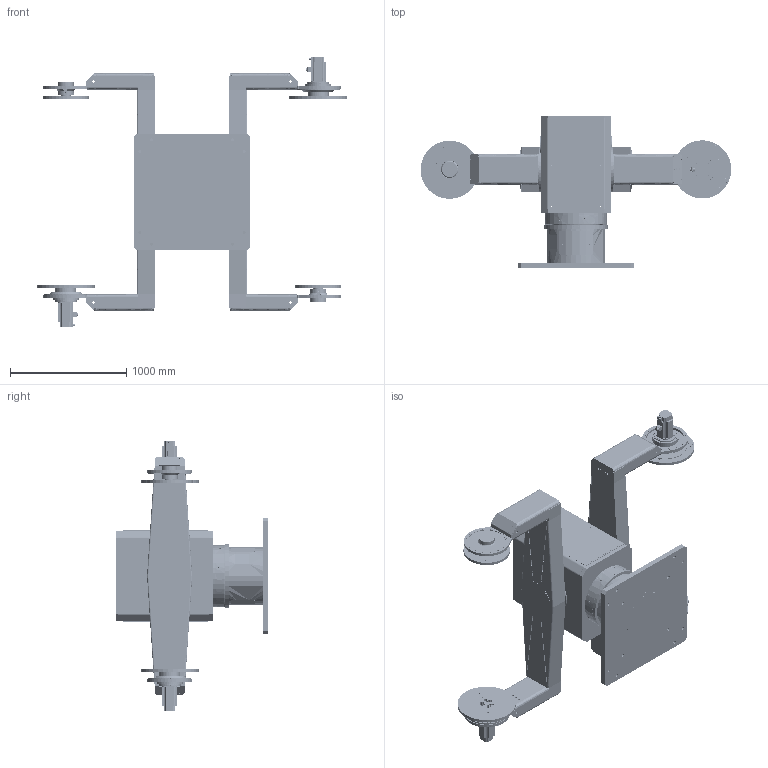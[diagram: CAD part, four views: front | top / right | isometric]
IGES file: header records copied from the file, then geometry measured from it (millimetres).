
Start section: SolidWorks IGES file using analytic representation for surfaces
Global section: file name: S:\Standardpositionierer\3D-Modelle (reduziert)\R2C\140682red\140682red.IGS; native system: SolidWorks 2008; preprocessor: SolidWorks 2008; author: loeschner; date: 081027.143635; units: millimetre
Bounding box: 2676 x 1314.5 x 2332 mm (x, y, z)
Surface area: 25260408.7 mm2 (no closed solid volume)
Topology: 0 solids, 0 shells, 5761 faces, 121257 edges, 120853 vertices
Faces by surface type: revolution 4061, bspline 1700
